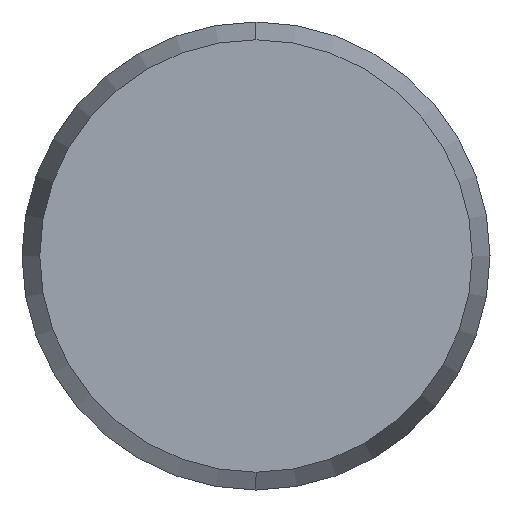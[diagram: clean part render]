
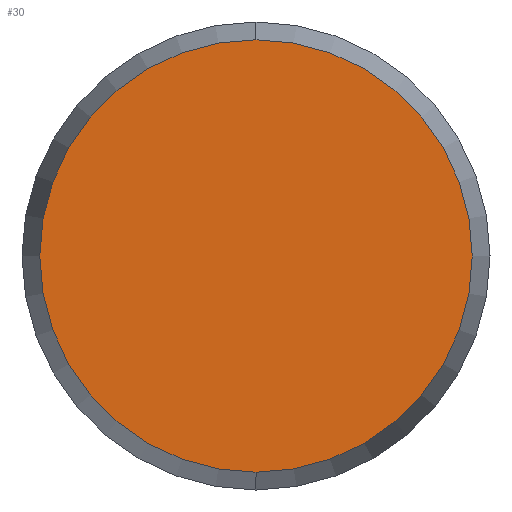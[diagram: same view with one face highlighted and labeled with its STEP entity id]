
A CAD part, left-side view. The second image highlights one B-rep face of the part: STEP entity #30.
In plain terms, the highlighted planar face has unit normal (-1, 0, 0).
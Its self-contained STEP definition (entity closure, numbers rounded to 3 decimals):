
#12 = EDGE_LOOP ( 'NONE', ( #29, #31 ) ) ;
#29 = ORIENTED_EDGE ( 'NONE', *, *, #56, .F. ) ;
#30 = ADVANCED_FACE ( 'NONE', ( #141 ), #137, .F. ) ;
#31 = ORIENTED_EDGE ( 'NONE', *, *, #65, .F. ) ;
#56 = EDGE_CURVE ( 'NONE', #57, #58, #190, .T. ) ;
#57 = VERTEX_POINT ( 'NONE', #186 ) ;
#58 = VERTEX_POINT ( 'NONE', #185 ) ;
#65 = EDGE_CURVE ( 'NONE', #58, #57, #178, .T. ) ;
#132 = DIRECTION ( 'NONE',  ( 0., 0., -1. ) ) ;
#133 = DIRECTION ( 'NONE',  ( 1., 0., 0. ) ) ;
#134 = CARTESIAN_POINT ( 'NONE',  ( -15., 0., 0. ) ) ;
#136 = AXIS2_PLACEMENT_3D ( 'NONE', #134, #133, #132 ) ;
#137 = PLANE ( 'NONE',  #136 ) ;
#141 = FACE_OUTER_BOUND ( 'NONE', #12, .T. ) ;
#174 = DIRECTION ( 'NONE',  ( 0., 0., -1. ) ) ;
#175 = DIRECTION ( 'NONE',  ( 1., 0., 0. ) ) ;
#176 = CARTESIAN_POINT ( 'NONE',  ( -15., 0., 0. ) ) ;
#177 = AXIS2_PLACEMENT_3D ( 'NONE', #176, #175, #174 ) ;
#178 = CIRCLE ( 'NONE', #177, 5.544 ) ;
#185 = CARTESIAN_POINT ( 'NONE',  ( -15., 0., -5.544 ) ) ;
#186 = CARTESIAN_POINT ( 'NONE',  ( -15., 0., 5.544 ) ) ;
#187 = DIRECTION ( 'NONE',  ( 0., 0., -1. ) ) ;
#188 = DIRECTION ( 'NONE',  ( 1., 0., 0. ) ) ;
#189 = AXIS2_PLACEMENT_3D ( 'NONE', #196, #188, #187 ) ;
#190 = CIRCLE ( 'NONE', #189, 5.544 ) ;
#196 = CARTESIAN_POINT ( 'NONE',  ( -15., 0., 0. ) ) ;
